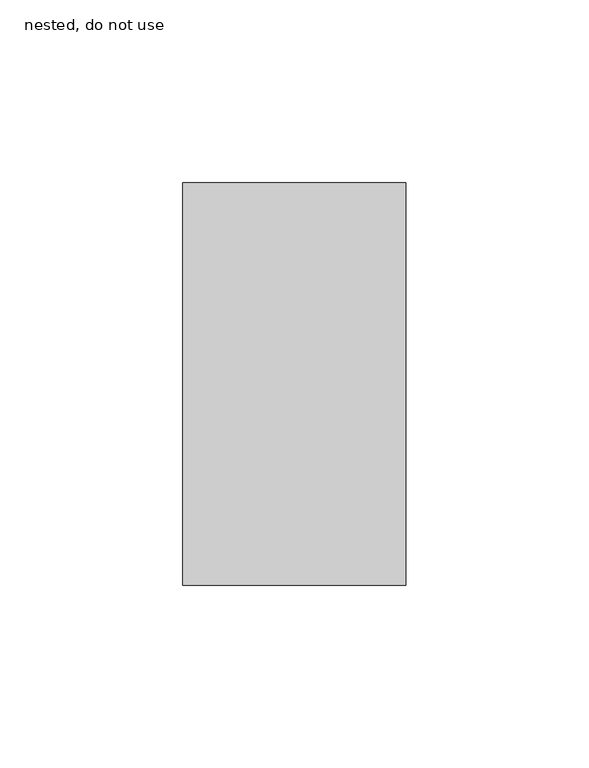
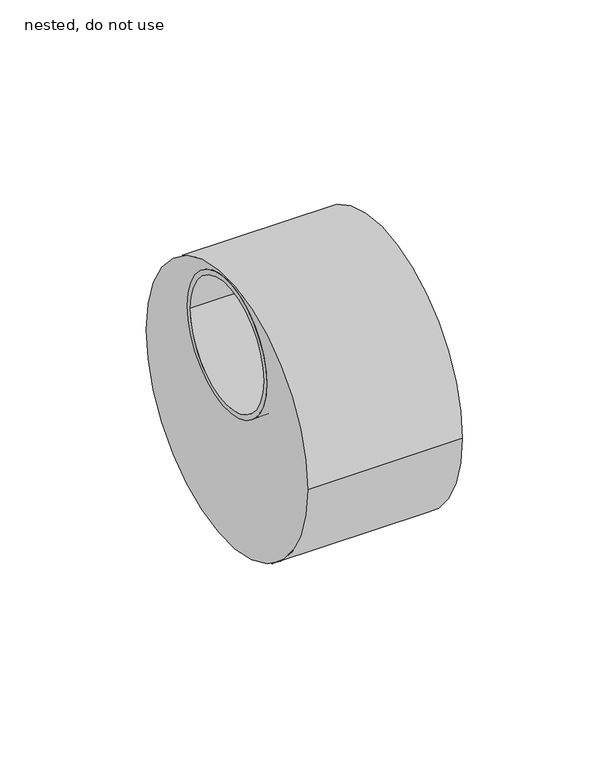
"""IFC4 building model written with IfcOpenShell, lengths in millimetres: pipe fitting geometry, NLRS_52_PIF_UN_Vacurain Flex verloop LV_SH_Dyka : nested, do not use."""

from ifc_helpers import new_model, si_unit, point, frame, frame_2d, origin, place, context, project, spatial, polyline, circle_curve, trimmed, segment, composite_curve, outline, extrude, source, transform, mapped, element, save
from ifc_brep_helpers import plane_surface, cylinder_surface, revolved_surface, advanced_brep


def nested_do_not_use_2a686885(model_context):
    return source(origin(), model_context, "Body", "SolidModel", [
        extrude(outline(composite_curve([segment(trimmed(circle_curve(frame_2d((0.0, 27.0)), 27.0), [point((-27.0, 27.0))], [point((27.0, 27.0))], False, "CARTESIAN"), True, "CONTINUOUS"), segment(trimmed(circle_curve(frame_2d((0.0, 27.0)), 27.0), [point((27.0, 27.0))], [point((-27.0, 27.0))], False, "CARTESIAN"), True, "CONTINUOUS")], self_intersect=False), holes=[composite_curve([segment(trimmed(circle_curve(frame_2d((0.0, 27.0)), 25.0), [point((-25.0, 27.0))], [point((25.0, 27.0))], True, "CARTESIAN"), True, "CONTINUOUS"), segment(trimmed(circle_curve(frame_2d((0.0, 27.0)), 25.0), [point((25.0, 27.0))], [point((-25.0, 27.0))], True, "CARTESIAN"), True, "CONTINUOUS")], self_intersect=False)]), frame((-46.0, 0.0, 0.0), z_axis=(1.0, 0.0, 0.0), x_axis=(0.0, 1.0, 0.0)), (0.0, 0.0, 1.0), 31.0),
        advanced_brep(
        [(-46.0, -55.0, 0.0), (-46.0, 55.0, 0.0), (-46.0, -25.0, 27.0), (-46.0, 25.0, 27.0), (15.0, -55.0, 0.0), (15.0, 55.0, 0.0), (-15.0, -25.0, 27.0), (-15.0, 25.0, 27.0)],
        [
            (0, 1, circle_curve(frame((-46.0, 0.0, 0.0), z_axis=(-1.0, 0.0, 0.0), x_axis=(0.0, 1.0, 0.0)), 55.0)),
            (1, 0, circle_curve(frame((-46.0, 0.0, 0.0), z_axis=(-1.0, 0.0, 0.0), x_axis=(0.0, 1.0, 0.0)), 55.0)),
            (2, 3, circle_curve(frame((-46.0, 0.0, 27.0), z_axis=(1.0, 0.0, 0.0), x_axis=(0.0, 1.0, 0.0)), 25.0)),
            (3, 2, circle_curve(frame((-46.0, 0.0, 27.0), z_axis=(1.0, 0.0, 0.0), x_axis=(0.0, 1.0, 0.0)), 25.0)),
            (4, 5, circle_curve(frame((15.0, 0.0, 0.0), z_axis=(1.0, 0.0, 0.0), x_axis=(0.0, 1.0, 0.0)), 55.0)),
            (5, 4, circle_curve(frame((15.0, 0.0, 0.0), z_axis=(1.0, 0.0, 0.0), x_axis=(0.0, 1.0, 0.0)), 55.0)),
            (1, 5),
            (4, 0),
            (6, 7, circle_curve(frame((-15.0, 0.0, 27.0), z_axis=(-1.0, 0.0, 0.0), x_axis=(0.0, 1.0, 0.0)), 25.0)),
            (7, 6, circle_curve(frame((-15.0, 0.0, 27.0), z_axis=(-1.0, 0.0, 0.0), x_axis=(0.0, 1.0, 0.0)), 25.0)),
            (7, 3),
            (2, 6),
        ],
        [
            plane_surface(frame((-46.0, 55.0, 0.0), z_axis=(-1.0, 0.0, 0.0), x_axis=(0.0, 0.0, -1.0))),
            plane_surface(frame((15.0, 55.0, 0.0), z_axis=(1.0, 0.0, 0.0), x_axis=(0.0, 0.0, 1.0))),
            cylinder_surface(frame((-46.0, 0.0, 0.0), z_axis=(1.0, 0.0, 0.0), x_axis=(0.0, 1.0, 0.0)), 55.0),
            plane_surface(frame((-15.0, 25.0, 27.0), z_axis=(-1.0, 0.0, 0.0), x_axis=(0.0, 0.0, 1.0))),
            revolved_surface(polyline([(-15.0, 25.0, 27.0), (-46.0, 25.0, 27.0)]), (-46.0, 0.0, 27.0), (1.0, 0.0, 0.0)),
        ],
        [
            (0, [[1, 2], [3, 4]]),
            (1, [[5, 6]]),
            (2, [[-2, 7, -5, 8]]),
            (2, [[-1, -8, -6, -7]]),
            (3, [[9, 10]]),
            (4, [[-10, 11, -3, 12]]),
            (4, [[-9, -12, -4, -11]]),
        ],
    ),
    ])


if __name__ == "__main__":
    model = new_model("IFC4")
    model_context = context("Model", 3, world=origin())
    ifc_project = project(units=[si_unit("LENGTHUNIT", "METRE", prefix="MILLI")], contexts=[model_context])
    site = spatial("IfcSite", under=ifc_project)
    building = spatial("IfcBuilding", under=site)
    placement = place(None, origin())
    nested_do_not_use_shape = nested_do_not_use_2a686885(model_context)
    element("IfcPipeFitting", 1, ObjectType="NLRS_52_PIF_UN_Vacurain Flex verloop LV_SH_Dyka : nested, do not use", at=placement, inside=building, context=model_context, shape_type="MappedRepresentation", body=[
        mapped(nested_do_not_use_shape, transform((0.0, 0.0, 0.0), x_axis=(1.0, 0.0, 0.0), y_axis=(0.0, 1.0, 0.0), z_axis=(0.0, 0.0, 1.0))),
    ])
    save(model, "model.ifc")
